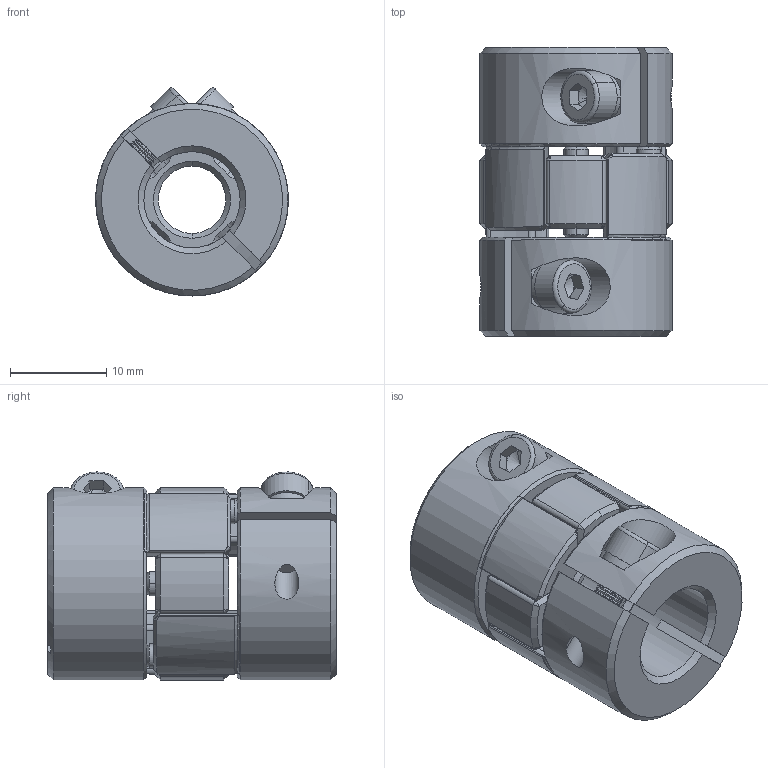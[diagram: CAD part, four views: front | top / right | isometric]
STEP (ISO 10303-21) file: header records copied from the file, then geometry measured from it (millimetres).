
FILE_DESCRIPTION (( 'STEP AP203' ), '1' );
FILE_NAME ('LF-B-D20L30-8-10.STEP', '2021-10-27T02:55:28', ( '' ), ( '' ), 'SwSTEP 2.0', 'SolidWorks 2018', '' );
FILE_SCHEMA (( 'CONFIG_CONTROL_DESIGN' ));
Length unit declared in the file: millimetre
Products named in the file (1): LF-B-D20L30-8-10
Bounding box: 20 x 30 x 21.62 mm (x, y, z)
Volume: 7043.2 mm3; surface area: 4833.3 mm2
Topology: 1 solids, 1 shells, 518 faces, 1253 edges, 691 vertices
Faces by surface type: cone 252, cylinder 192, plane 62, torus 12
Entity records: 15022 total; most frequent: CARTESIAN_POINT 2902, DIRECTION 2742, ORIENTED_EDGE 2426, EDGE_CURVE 1213, AXIS2_PLACEMENT_3D 1107, VERTEX_POINT 691, CIRCLE 588, EDGE_LOOP 546
